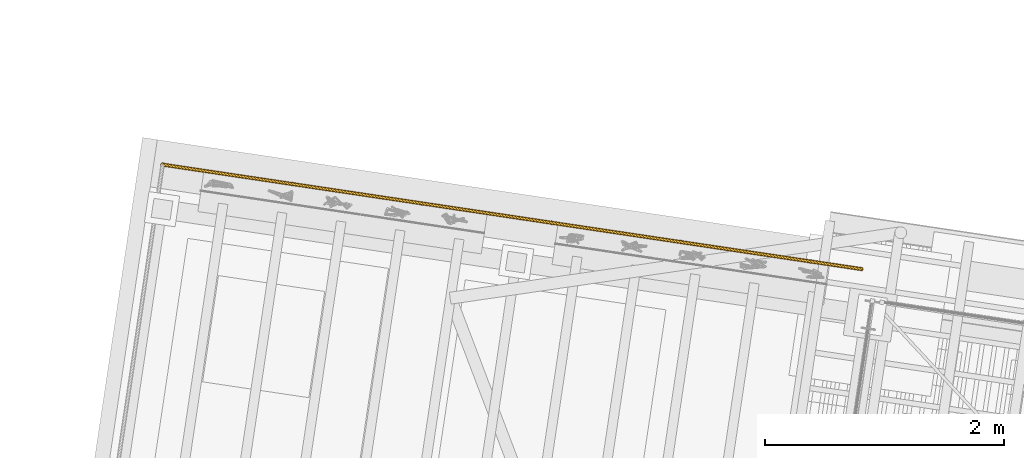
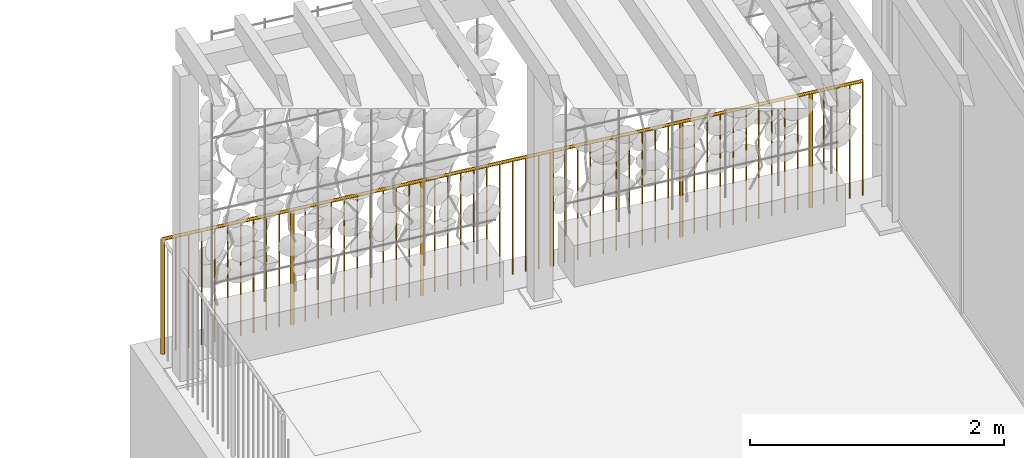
# One storey, part 124 of 128: 1 railing, 1 element without a shape of its own.
"""IFC4 building model written with IfcOpenShell, lengths in metres."""

import ifcopenshell
import ifcopenshell.guid

model = None  # the IFC model being written
_history = None  # IfcOwnerHistory: only IFC2X3 demands one
_inside = {}  # id of a spatial element -> (the spatial element, [elements in it])
_under = {}  # id of a project, library or spatial element -> (it, [spatial elements below it])
_declared = {}  # id of a project -> (the project, [libraries it declares])
_typed = {}  # id of a type object -> (the type object, [elements of that type])
_made_of = {}  # id of a material, layer set ... -> (it, [elements and type objects made of it])


def new_model(schema):
    """Start an empty IFC model of exactly this schema.

    Asked for "IFC4X3", IfcOpenShell would pick the latest addendum, in which some entities
    have other attributes; the version numbers below select the first issue.
    IFC2X3 requires an IfcOwnerHistory on every rooted entity: one is made here for all.
    """
    global model, _history
    if schema == "IFC4X3":
        model = ifcopenshell.file(schema_version=(4, 3, 0, 0))
    else:
        model = ifcopenshell.file(schema=schema)
    _inside.clear()
    _under.clear()
    _declared.clear()
    _typed.clear()
    _made_of.clear()
    _history = None
    if model.schema == "IFC2X3":
        org = make("IfcOrganization", Name="unknown")
        user = make(
            "IfcPersonAndOrganization",
            ThePerson=make("IfcPerson", FamilyName="unknown"),
            TheOrganization=org,
        )
        app = make(
            "IfcApplication",
            ApplicationDeveloper=org,
            Version="unknown",
            ApplicationFullName="unknown",
            ApplicationIdentifier="unknown",
        )
        _history = make(
            "IfcOwnerHistory",
            OwningUser=user,
            OwningApplication=app,
            ChangeAction="ADDED",
            CreationDate=0,
        )
    return model


def make(cls, **values):
    """One entity of the class cls with the attributes given. An attribute that is None is left unset."""
    return model.create_entity(
        cls, **{name: value for name, value in values.items() if value is not None}
    )


def rooted(cls, **values):
    """An entity with a GlobalId (a new one), such as an element, a storey or a relation."""
    return make(cls, GlobalId=ifcopenshell.guid.new(), OwnerHistory=_history, **values)


def si_unit(unit_type, name, prefix=None):
    """IfcSIUnit, for example si_unit("LENGTHUNIT", "METRE", prefix="MILLI")."""
    return make("IfcSIUnit", UnitType=unit_type, Prefix=prefix, Name=name)


def assignment(units):
    """IfcUnitAssignment: the units of a project."""
    return None if units is None else make("IfcUnitAssignment", Units=units)


def point(xyz):
    """IfcCartesianPoint."""
    return None if xyz is None else make("IfcCartesianPoint", Coordinates=xyz)


def direction(xyz):
    """IfcDirection."""
    return None if xyz is None else make("IfcDirection", DirectionRatios=xyz)


def frame(location, z_axis=None, x_axis=None):
    """IfcAxis2Placement3D, a coordinate frame: its origin and axes. An axis left out is left unset."""
    return make(
        "IfcAxis2Placement3D",
        Location=point(location),
        Axis=direction(z_axis),
        RefDirection=direction(x_axis),
    )


def origin_with_axes():
    """The frame at (0, 0, 0) with the z axis (0, 0, 1) and the x axis (1, 0, 0) written out."""
    return frame((0.0, 0.0, 0.0), z_axis=(0.0, 0.0, 1.0), x_axis=(1.0, 0.0, 0.0))


def place(relative_to, where):
    """IfcLocalPlacement: puts the frame where relative to a parent placement (None: the world)."""
    return make(
        "IfcLocalPlacement", PlacementRelTo=relative_to, RelativePlacement=where
    )


def context(
    kind, dimensions, precision=None, world=None, true_north=None, identifier=None
):
    """IfcGeometricRepresentationContext, for example the 3D "Model" context."""
    return make(
        "IfcGeometricRepresentationContext",
        ContextIdentifier=identifier,
        ContextType=kind,
        CoordinateSpaceDimension=dimensions,
        Precision=precision,
        WorldCoordinateSystem=world,
        TrueNorth=true_north,
    )


def subcontext(parent, identifier, kind, view, scale=None):
    """IfcGeometricRepresentationSubContext, for example "Body" below "Model"."""
    return make(
        "IfcGeometricRepresentationSubContext",
        ContextIdentifier=identifier,
        ContextType=kind,
        ParentContext=parent,
        TargetScale=scale,
        TargetView=view,
    )


def project(units=None, contexts=None):
    """IfcProject with its units and contexts."""
    return rooted(
        "IfcProject",
        Name="project",
        RepresentationContexts=contexts,
        UnitsInContext=assignment(units),
    )


def spatial(cls, under=None, at=None, **own):
    """A site, building, storey or space (cls), placed at a placement, below another one or the project."""
    s = rooted(cls, ObjectPlacement=at, **own)
    if under is not None:
        _under.setdefault(under.id(), (under, []))[1].append(s)
    return s


def profile(cls, at=None, kind="AREA", **sizes):
    """A parametric profile (cls). Its sizes go by their IFC names, for example OverallWidth=200.0."""
    return make(cls, ProfileType=kind, Position=at, **sizes)


def circle(**sizes):
    """IfcCircleProfileDef."""
    return profile("IfcCircleProfileDef", **sizes)


def extrude(swept, where, along, depth):
    """IfcExtrudedAreaSolid: the profile swept, set in the frame where, extruded along a direction by depth."""
    return make(
        "IfcExtrudedAreaSolid",
        SweptArea=swept,
        Position=where,
        ExtrudedDirection=direction(along),
        Depth=depth,
    )


def shape(context_of_items, identifier, shape_type, items):
    """IfcShapeRepresentation: the items that make up one representation, for example the "Body"."""
    return make(
        "IfcShapeRepresentation",
        ContextOfItems=context_of_items,
        RepresentationIdentifier=identifier,
        RepresentationType=shape_type,
        Items=items,
    )


def material(Name=None, Category=None):
    """IfcMaterial."""
    return make("IfcMaterial", Name=Name, Category=Category)


def made_of(thing, what):
    """Note that an element or type object is made of a material, layer set ...; save() writes the relation."""
    if what is not None:
        _made_of.setdefault(what.id(), (what, []))[1].append(thing)
    return thing


def element(
    cls,
    number,
    at=None,
    inside=None,
    cuts=None,
    type_object=None,
    material=None,
    context=None,
    identifier="Body",
    shape_type=None,
    held_by="IfcProductDefinitionShape",
    body=None,
    shapes=None,
    **own,
):
    """One element of the class cls, such as IfcWall. Its Tag is "e" and its number.

    at: its placement. inside: the storey or other place that contains it. cuts: it is an
    opening in that element (IfcRelVoidsElement). A single representation is given by context,
    identifier, shape_type and body (its items); several are given by shapes. held_by: the class
    of the entity that holds the representations. save() writes the other relations.
    """
    e = rooted(cls, Tag="e%d" % number, ObjectPlacement=at, **own)
    if body is not None:
        shapes = [shape(context, identifier, shape_type, body)]
    if shapes is not None:
        e.Representation = make(held_by, Representations=shapes)
    if inside is not None:
        _inside.setdefault(inside.id(), (inside, []))[1].append(e)
    if cuts is not None:
        rooted(
            "IfcRelVoidsElement", RelatingBuildingElement=cuts, RelatedOpeningElement=e
        )
    if type_object is not None:
        _typed.setdefault(type_object.id(), (type_object, []))[1].append(e)
    return made_of(e, material)


def aggregate(whole, parts):
    """IfcRelAggregates: a whole, such as a stair, and the parts it consists of."""
    return rooted("IfcRelAggregates", RelatingObject=whole, RelatedObjects=parts)


def save(model, path):
    """Write the relations noted so far, then the file.

    IfcRelAggregates (storeys below a building ...), IfcRelContainedInSpatialStructure (elements
    in a storey), IfcRelDefinesByType, IfcRelAssociatesMaterial and IfcRelDeclares: one each for
    every whole, place, type object, material and project.
    """
    for whole, parts in _under.values():
        aggregate(whole, parts)
    for where, things in _inside.values():
        rooted(
            "IfcRelContainedInSpatialStructure",
            RelatedElements=things,
            RelatingStructure=where,
        )
    for kind, things in _typed.values():
        rooted("IfcRelDefinesByType", RelatedObjects=things, RelatingType=kind)
    for what, things in _made_of.values():
        rooted("IfcRelAssociatesMaterial", RelatedObjects=things, RelatingMaterial=what)
    for by, libraries in _declared.values():
        rooted("IfcRelDeclares", RelatingContext=by, RelatedDefinitions=libraries)
    model.write(path)


model = new_model("IFC4")

# Units and contexts
model_context = context("Model", 3, precision=1e-05, world=origin_with_axes(), true_north=direction((0.0, 1.0)))
body_context = subcontext(model_context, "Body", "Model", "MODEL_VIEW")
ifc_project = project(units=[si_unit("VOLUMEUNIT", "CUBIC_METRE"), si_unit("LENGTHUNIT", "METRE"), si_unit("AREAUNIT", "SQUARE_METRE")], contexts=[model_context])

# Site, building, storey
site_placement = place(None, origin_with_axes())
site = spatial("IfcSite", under=ifc_project, at=site_placement, Name="Lares · Rua das Mercês · artigo 4771")
building_placement = place(site_placement, frame((15.0, 9.7, 13.9), z_axis=(0.0, 0.0, 1.0), x_axis=(0.989015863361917, -0.147809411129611, 0.0)))
building = spatial("IfcBuilding", under=site, at=building_placement, Name="Casa Sobreposta")
storey_placement = place(building_placement, origin_with_axes())
storey = spatial("IfcBuildingStorey", under=building, at=storey_placement, Name="00 · Habitação e estacionamento", Elevation=13.9)

# Assembly, railing
assembly_placement = place(storey_placement, origin_with_axes())
assembly = element("IfcElementAssembly", 1, at=assembly_placement, inside=storey, Name="Pódio · terraço, casa térrea e cisterna", ObjectType="CISTERN_PODIUM", PredefinedType="USERDEFINED")
ifc_material = material(Name="Aço pintado / Stahl lackiert", Category="steel")
railing_placement = place(assembly_placement, origin_with_axes())
railing = element("IfcRailing", 2, at=railing_placement, material=ifc_material, Name="Pódio · guarda norte", PredefinedType="GUARDRAIL", context=body_context, shape_type="SweptSolid", body=[
    extrude(circle(Radius=0.015), frame((-6.05, 6.65, 1.06), z_axis=(1.0, 0.0, 0.0), x_axis=(0.0, -1.0, 0.0)), (0.0, 0.0, 1.0), 5.93),
    extrude(circle(Radius=0.0175), frame((-6.05, 6.65, -0.04), z_axis=(0.0, 0.0, 1.0), x_axis=(1.0, 0.0, 0.0)), (0.0, 0.0, 1.0), 1.1),
    extrude(circle(Radius=0.006), frame((-5.94018518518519, 6.65, -0.04), z_axis=(0.0, 0.0, 1.0), x_axis=(1.0, 0.0, 0.0)), (0.0, 0.0, 1.0), 1.1),
    extrude(circle(Radius=0.006), frame((-5.83037037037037, 6.65, -0.04), z_axis=(0.0, 0.0, 1.0), x_axis=(1.0, 0.0, 0.0)), (0.0, 0.0, 1.0), 1.1),
    extrude(circle(Radius=0.006), frame((-5.72055555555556, 6.65, -0.04), z_axis=(0.0, 0.0, 1.0), x_axis=(1.0, 0.0, 0.0)), (0.0, 0.0, 1.0), 1.1),
    extrude(circle(Radius=0.006), frame((-5.61074074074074, 6.65, -0.04), z_axis=(0.0, 0.0, 1.0), x_axis=(1.0, 0.0, 0.0)), (0.0, 0.0, 1.0), 1.1),
    extrude(circle(Radius=0.006), frame((-5.50092592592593, 6.65, -0.04), z_axis=(0.0, 0.0, 1.0), x_axis=(1.0, 0.0, 0.0)), (0.0, 0.0, 1.0), 1.1),
    extrude(circle(Radius=0.006), frame((-5.39111111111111, 6.65, -0.04), z_axis=(0.0, 0.0, 1.0), x_axis=(1.0, 0.0, 0.0)), (0.0, 0.0, 1.0), 1.1),
    extrude(circle(Radius=0.006), frame((-5.2812962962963, 6.65, -0.04), z_axis=(0.0, 0.0, 1.0), x_axis=(1.0, 0.0, 0.0)), (0.0, 0.0, 1.0), 1.1),
    extrude(circle(Radius=0.006), frame((-5.17148148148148, 6.65, -0.04), z_axis=(0.0, 0.0, 1.0), x_axis=(1.0, 0.0, 0.0)), (0.0, 0.0, 1.0), 1.1),
    extrude(circle(Radius=0.006), frame((-5.06166666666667, 6.65, -0.04), z_axis=(0.0, 0.0, 1.0), x_axis=(1.0, 0.0, 0.0)), (0.0, 0.0, 1.0), 1.1),
    extrude(circle(Radius=0.0175), frame((-4.95185185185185, 6.65, -0.04), z_axis=(0.0, 0.0, 1.0), x_axis=(1.0, 0.0, 0.0)), (0.0, 0.0, 1.0), 1.1),
    extrude(circle(Radius=0.006), frame((-4.84203703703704, 6.65, -0.04), z_axis=(0.0, 0.0, 1.0), x_axis=(1.0, 0.0, 0.0)), (0.0, 0.0, 1.0), 1.1),
    extrude(circle(Radius=0.006), frame((-4.73222222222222, 6.65, -0.04), z_axis=(0.0, 0.0, 1.0), x_axis=(1.0, 0.0, 0.0)), (0.0, 0.0, 1.0), 1.1),
    extrude(circle(Radius=0.006), frame((-4.62240740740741, 6.65, -0.04), z_axis=(0.0, 0.0, 1.0), x_axis=(1.0, 0.0, 0.0)), (0.0, 0.0, 1.0), 1.1),
    extrude(circle(Radius=0.006), frame((-4.51259259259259, 6.65, -0.04), z_axis=(0.0, 0.0, 1.0), x_axis=(1.0, 0.0, 0.0)), (0.0, 0.0, 1.0), 1.1),
    extrude(circle(Radius=0.006), frame((-4.40277777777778, 6.65, -0.04), z_axis=(0.0, 0.0, 1.0), x_axis=(1.0, 0.0, 0.0)), (0.0, 0.0, 1.0), 1.1),
    extrude(circle(Radius=0.006), frame((-4.29296296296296, 6.65, -0.04), z_axis=(0.0, 0.0, 1.0), x_axis=(1.0, 0.0, 0.0)), (0.0, 0.0, 1.0), 1.1),
    extrude(circle(Radius=0.006), frame((-4.18314814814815, 6.65, -0.04), z_axis=(0.0, 0.0, 1.0), x_axis=(1.0, 0.0, 0.0)), (0.0, 0.0, 1.0), 1.1),
    extrude(circle(Radius=0.006), frame((-4.07333333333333, 6.65, -0.04), z_axis=(0.0, 0.0, 1.0), x_axis=(1.0, 0.0, 0.0)), (0.0, 0.0, 1.0), 1.1),
    extrude(circle(Radius=0.006), frame((-3.96351851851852, 6.65, -0.04), z_axis=(0.0, 0.0, 1.0), x_axis=(1.0, 0.0, 0.0)), (0.0, 0.0, 1.0), 1.1),
    extrude(circle(Radius=0.0175), frame((-3.8537037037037, 6.65, -0.04), z_axis=(0.0, 0.0, 1.0), x_axis=(1.0, 0.0, 0.0)), (0.0, 0.0, 1.0), 1.1),
    extrude(circle(Radius=0.006), frame((-3.74388888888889, 6.65, -0.04), z_axis=(0.0, 0.0, 1.0), x_axis=(1.0, 0.0, 0.0)), (0.0, 0.0, 1.0), 1.1),
    extrude(circle(Radius=0.006), frame((-3.63407407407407, 6.65, -0.04), z_axis=(0.0, 0.0, 1.0), x_axis=(1.0, 0.0, 0.0)), (0.0, 0.0, 1.0), 1.1),
    extrude(circle(Radius=0.006), frame((-3.52425925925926, 6.65, -0.04), z_axis=(0.0, 0.0, 1.0), x_axis=(1.0, 0.0, 0.0)), (0.0, 0.0, 1.0), 1.1),
    extrude(circle(Radius=0.006), frame((-3.41444444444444, 6.65, -0.04), z_axis=(0.0, 0.0, 1.0), x_axis=(1.0, 0.0, 0.0)), (0.0, 0.0, 1.0), 1.1),
    extrude(circle(Radius=0.006), frame((-3.30462962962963, 6.65, -0.04), z_axis=(0.0, 0.0, 1.0), x_axis=(1.0, 0.0, 0.0)), (0.0, 0.0, 1.0), 1.1),
    extrude(circle(Radius=0.006), frame((-3.19481481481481, 6.65, -0.04), z_axis=(0.0, 0.0, 1.0), x_axis=(1.0, 0.0, 0.0)), (0.0, 0.0, 1.0), 1.1),
    extrude(circle(Radius=0.006), frame((-3.085, 6.65, -0.04), z_axis=(0.0, 0.0, 1.0), x_axis=(1.0, 0.0, 0.0)), (0.0, 0.0, 1.0), 1.1),
    extrude(circle(Radius=0.006), frame((-2.97518518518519, 6.65, -0.04), z_axis=(0.0, 0.0, 1.0), x_axis=(1.0, 0.0, 0.0)), (0.0, 0.0, 1.0), 1.1),
    extrude(circle(Radius=0.006), frame((-2.86537037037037, 6.65, -0.04), z_axis=(0.0, 0.0, 1.0), x_axis=(1.0, 0.0, 0.0)), (0.0, 0.0, 1.0), 1.1),
    extrude(circle(Radius=0.0175), frame((-2.75555555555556, 6.65, -0.04), z_axis=(0.0, 0.0, 1.0), x_axis=(1.0, 0.0, 0.0)), (0.0, 0.0, 1.0), 1.1),
    extrude(circle(Radius=0.006), frame((-2.64574074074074, 6.65, -0.04), z_axis=(0.0, 0.0, 1.0), x_axis=(1.0, 0.0, 0.0)), (0.0, 0.0, 1.0), 1.1),
    extrude(circle(Radius=0.006), frame((-2.53592592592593, 6.65, -0.04), z_axis=(0.0, 0.0, 1.0), x_axis=(1.0, 0.0, 0.0)), (0.0, 0.0, 1.0), 1.1),
    extrude(circle(Radius=0.006), frame((-2.42611111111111, 6.65, -0.04), z_axis=(0.0, 0.0, 1.0), x_axis=(1.0, 0.0, 0.0)), (0.0, 0.0, 1.0), 1.1),
    extrude(circle(Radius=0.006), frame((-2.3162962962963, 6.65, -0.04), z_axis=(0.0, 0.0, 1.0), x_axis=(1.0, 0.0, 0.0)), (0.0, 0.0, 1.0), 1.1),
    extrude(circle(Radius=0.006), frame((-2.20648148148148, 6.65, -0.04), z_axis=(0.0, 0.0, 1.0), x_axis=(1.0, 0.0, 0.0)), (0.0, 0.0, 1.0), 1.1),
    extrude(circle(Radius=0.006), frame((-2.09666666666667, 6.65, -0.04), z_axis=(0.0, 0.0, 1.0), x_axis=(1.0, 0.0, 0.0)), (0.0, 0.0, 1.0), 1.1),
    extrude(circle(Radius=0.006), frame((-1.98685185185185, 6.65, -0.04), z_axis=(0.0, 0.0, 1.0), x_axis=(1.0, 0.0, 0.0)), (0.0, 0.0, 1.0), 1.1),
    extrude(circle(Radius=0.006), frame((-1.87703703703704, 6.65, -0.04), z_axis=(0.0, 0.0, 1.0), x_axis=(1.0, 0.0, 0.0)), (0.0, 0.0, 1.0), 1.1),
    extrude(circle(Radius=0.006), frame((-1.76722222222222, 6.65, -0.04), z_axis=(0.0, 0.0, 1.0), x_axis=(1.0, 0.0, 0.0)), (0.0, 0.0, 1.0), 1.1),
    extrude(circle(Radius=0.0175), frame((-1.65740740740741, 6.65, -0.04), z_axis=(0.0, 0.0, 1.0), x_axis=(1.0, 0.0, 0.0)), (0.0, 0.0, 1.0), 1.1),
    extrude(circle(Radius=0.006), frame((-1.54759259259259, 6.65, -0.04), z_axis=(0.0, 0.0, 1.0), x_axis=(1.0, 0.0, 0.0)), (0.0, 0.0, 1.0), 1.1),
    extrude(circle(Radius=0.006), frame((-1.43777777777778, 6.65, -0.04), z_axis=(0.0, 0.0, 1.0), x_axis=(1.0, 0.0, 0.0)), (0.0, 0.0, 1.0), 1.1),
    extrude(circle(Radius=0.006), frame((-1.32796296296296, 6.65, -0.04), z_axis=(0.0, 0.0, 1.0), x_axis=(1.0, 0.0, 0.0)), (0.0, 0.0, 1.0), 1.1),
    extrude(circle(Radius=0.006), frame((-1.21814814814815, 6.65, -0.04), z_axis=(0.0, 0.0, 1.0), x_axis=(1.0, 0.0, 0.0)), (0.0, 0.0, 1.0), 1.1),
    extrude(circle(Radius=0.006), frame((-1.10833333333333, 6.65, -0.04), z_axis=(0.0, 0.0, 1.0), x_axis=(1.0, 0.0, 0.0)), (0.0, 0.0, 1.0), 1.1),
    extrude(circle(Radius=0.006), frame((-0.998518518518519, 6.65, -0.04), z_axis=(0.0, 0.0, 1.0), x_axis=(1.0, 0.0, 0.0)), (0.0, 0.0, 1.0), 1.1),
    extrude(circle(Radius=0.006), frame((-0.888703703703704, 6.65, -0.04), z_axis=(0.0, 0.0, 1.0), x_axis=(1.0, 0.0, 0.0)), (0.0, 0.0, 1.0), 1.1),
    extrude(circle(Radius=0.006), frame((-0.778888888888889, 6.65, -0.04), z_axis=(0.0, 0.0, 1.0), x_axis=(1.0, 0.0, 0.0)), (0.0, 0.0, 1.0), 1.1),
    extrude(circle(Radius=0.006), frame((-0.669074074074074, 6.65, -0.04), z_axis=(0.0, 0.0, 1.0), x_axis=(1.0, 0.0, 0.0)), (0.0, 0.0, 1.0), 1.1),
    extrude(circle(Radius=0.0175), frame((-0.559259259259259, 6.65, -0.04), z_axis=(0.0, 0.0, 1.0), x_axis=(1.0, 0.0, 0.0)), (0.0, 0.0, 1.0), 1.1),
    extrude(circle(Radius=0.006), frame((-0.449444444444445, 6.65, -0.04), z_axis=(0.0, 0.0, 1.0), x_axis=(1.0, 0.0, 0.0)), (0.0, 0.0, 1.0), 1.1),
    extrude(circle(Radius=0.006), frame((-0.33962962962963, 6.65, -0.04), z_axis=(0.0, 0.0, 1.0), x_axis=(1.0, 0.0, 0.0)), (0.0, 0.0, 1.0), 1.1),
    extrude(circle(Radius=0.006), frame((-0.229814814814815, 6.65, -0.04), z_axis=(0.0, 0.0, 1.0), x_axis=(1.0, 0.0, 0.0)), (0.0, 0.0, 1.0), 1.1),
    extrude(circle(Radius=0.006), frame((-0.12, 6.65, -0.04), z_axis=(0.0, 0.0, 1.0), x_axis=(1.0, 0.0, 0.0)), (0.0, 0.0, 1.0), 1.1),
])
aggregate(assembly, [railing])

save(model, "model.ifc")
